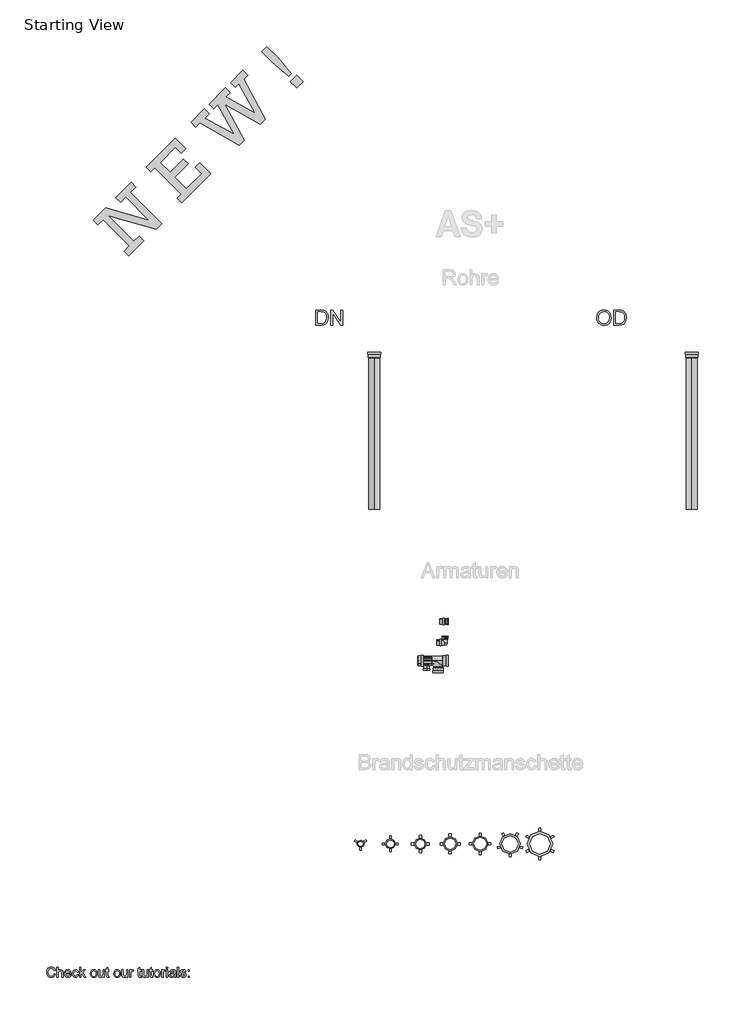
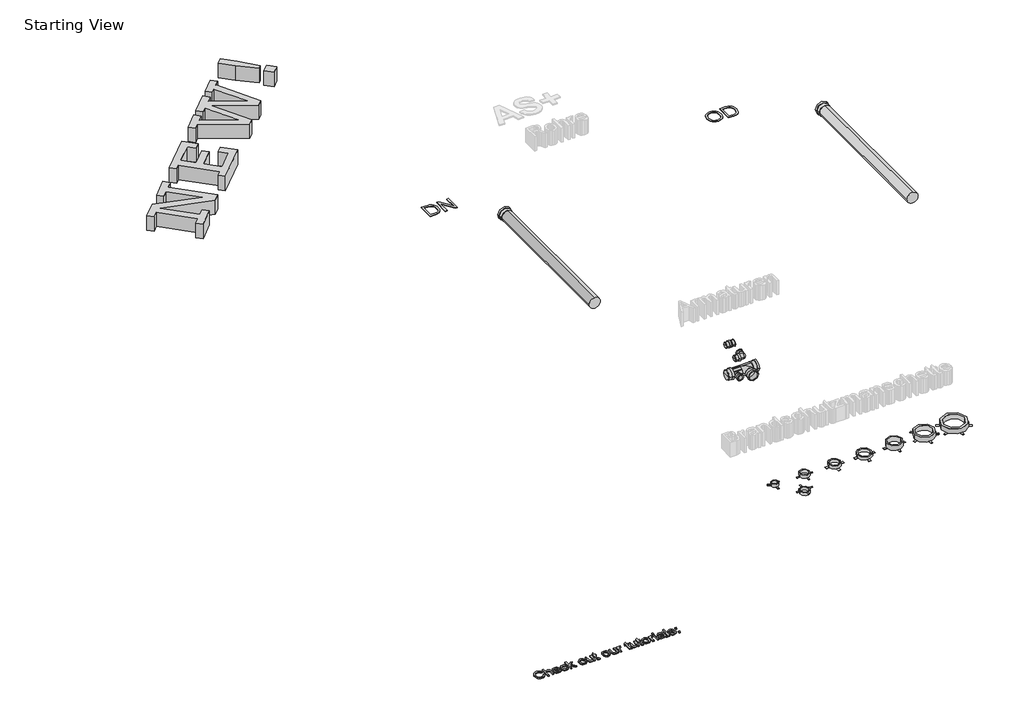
# One storey, part 1 of 2: 10 proxies, 8 pipe fittings, 2 pipe segments.
"""IFC4 building model written with IfcOpenShell, lengths in millimetres."""

from ifc_helpers import new_model, si_unit, point, frame, frame_2d, origin, origin_with_axes, place, context, project, spatial, polyline, circle_curve, trimmed, segment, composite_curve, outline, extrude, transform, mapped, element, save
from components import dn_110_31cb750b, dn_125_ca2b448a, dn_160_368857a8, dn_200_3af189cd, dn_50_013501fe, dn_75_5bf1040d, dn_90_ac1121be, pipe_fitting_2378b430, pipe_fitting_66f164b8, pif_as_branch_shower_wavin_03432781, pif_as_pipe_socket_wavin_socket_end_af24ac37, z_pif_as_transition_reducer_rubber_wavin_nested_var_23693647, z_pif_as_transition_reducer_rubber_wavin_nested_var_89c88401, z_starting_view_new_start_4_e8dffedb

model = new_model("IFC4")

# Units and contexts
model_context = context("Model", 3, world=origin())
ifc_project = project(units=[si_unit("LENGTHUNIT", "METRE", prefix="MILLI")], contexts=[model_context])

# Site, building, storey
site = spatial("IfcSite", under=ifc_project)
building = spatial("IfcBuilding", under=site)
storey = spatial("IfcBuildingStorey", under=building, Name="Starting View", Elevation=0.0)

# Proxies
placement = place(None, origin())
element("IfcBuildingElementProxy", 1, Name="Rockwell 500", ObjectType="Rockwell 500", at=placement, inside=storey, context=model_context, shape_type="SweptSolid", body=[
    extrude(outline(polyline([(22846.3326956, 14460.7284152), (22586.0739708, 14720.9871399), (22534.0222259, 14668.935395), (22487.7540081, 14715.2036127), (22611.7383729, 14839.1879775), (23040.9845335, 14717.1917002), (22811.6315323, 14946.5447014), (22759.5797874, 14894.4929565), (22713.3115696, 14940.7611742), (22863.6832773, 15091.1328819), (22909.951495, 15044.8646641), (22857.89975, 14992.8129192), (23170.2102198, 14680.5024494), (23114.3630351, 14624.6552647), (22639.933068, 14759.6644782), (22892.6009134, 14506.9966329), (22944.6526583, 14559.0483779), (22990.9208761, 14512.7801601), (22840.5491684, 14362.4084525), (22794.2809507, 14408.6766702), (22846.3326956, 14460.7284152)])), origin_with_axes(), (0.0, 0.0, 1.0), 150.0),
    extrude(outline(polyline([(23361.066618, 14975.4623375), (23100.8078932, 15235.7210623), (23060.3232027, 15195.2363718), (23014.0549849, 15241.5045895), (23303.2313458, 15530.6809504), (23407.3348357, 15426.5774605), (23361.066618, 15380.3092427), (23303.2313458, 15438.1445149), (23152.8596381, 15287.7728073), (23251.1796008, 15189.4528446), (23384.2007268, 15322.4739706), (23430.4689446, 15276.2057528), (23297.4478186, 15143.1846268), (23413.1183629, 15027.5140825), (23563.4900706, 15177.8857901), (23499.8712712, 15241.5045895), (23546.1394889, 15287.7728073), (23656.0265061, 15177.8857901), (23366.8501452, 14888.7094293), (23320.5819274, 14934.977647), (23361.066618, 14975.4623375)])), origin_with_axes(), (0.0, 0.0, 1.0), 150.0),
    extrude(outline(polyline([(23939.2386045, 15461.0978886), (23546.1394889, 15681.0526581), (23505.6547984, 15640.5679675), (23459.3865807, 15686.8361853), (23592.4077067, 15819.8573113), (23638.6759244, 15773.5890935), (23594.5765294, 15729.4896985), (23885.4698749, 15567.2798336), (23725.0673622, 15859.9805313), (23684.9441422, 15819.8573113), (23638.6759244, 15866.125529), (23800.6146865, 16028.0642911), (23846.8829042, 15981.7960734), (23804.0486558, 15938.9618249), (24093.6768547, 15775.4868134), (23933.2743421, 16068.1875112), (23898.9346492, 16033.8478183), (23852.6664315, 16080.1160361), (23974.120503, 16201.5701076), (24020.3887208, 16155.3018899), (23979.9040302, 16114.8171994), (24197.5092418, 15719.3685259), (24147.3552167, 15669.2145008), (23795.6444678, 15865.3122205), (23988.2178506, 15510.0771347), (23939.2386045, 15461.0978886)])), origin_with_axes(), (0.0, 0.0, 1.0), 150.0),
    extrude(outline(polyline([(24452.7977479, 16171.2969573), (24426.5911402, 16145.0903496), (24265.375319, 16280.4610336), (24159.193374, 16386.6429786), (24211.2451189, 16438.6947235), (24317.427064, 16332.5127785), (24452.7977479, 16171.2969573)])), origin_with_axes(), (0.0, 0.0, 1.0), 150.0),
    extrude(outline(polyline([(24506.205007, 16028.0642911), (24442.5862076, 16091.6830905), (24506.205007, 16155.3018899), (24569.8238064, 16091.6830905), (24506.205007, 16028.0642911)])), origin_with_axes(), (0.0, 0.0, 1.0), 150.0),
])
element("IfcBuildingElementProxy", 2, Name="Arial 100", ObjectType="Arial 100", at=placement, inside=storey, context=model_context, shape_type="SweptSolid", body=[
    extrude(outline(polyline([(22101.0469772, 7241.8902553), (22113.604016, 7238.6528938), (22107.8098746, 7224.0203874), (22098.7170579, 7213.3303498), (22086.7731558, 7206.7912473), (22072.425758, 7204.6115465), (22057.8606967, 7206.2608841), (22046.2938736, 7211.2088969), (22037.4279175, 7219.2839067), (22030.9654571, 7230.3142352), (22025.7047446, 7257.1696208), (22027.191601, 7271.8174556), (22031.6521702, 7284.4664649), (22038.8534603, 7294.7150441), (22048.5624792, 7302.1615889), (22060.0771857, 7306.6957344), (22072.6955381, 7308.2071163), (22086.4635218, 7306.2512104), (22097.8464039, 7300.3834925), (22106.4885651, 7290.9657135), (22112.0343861, 7278.3596238), (22099.4773474, 7275.3675169), (22089.1766515, 7290.8062979), (22072.2050288, 7295.6500775), (22052.5601303, 7290.2790004), (22041.4623567, 7275.8580262), (22038.2617834, 7257.1941463), (22042.0509679, 7235.562685), (22053.8477172, 7221.7425847), (22071.1749592, 7217.1685852), (22081.6565304, 7218.7259524), (22090.3906621, 7223.3980537), (22096.9849469, 7231.1358383), (22101.0469772, 7241.8902553)])), origin_with_axes(), (0.0, 0.0, 1.0), 10.0),
    extrude(outline(polyline([(22129.3003145, 7206.1811763), (22129.3003145, 7306.6374865), (22141.8573532, 7306.6374865), (22141.8573532, 7269.7021342), (22151.6491457, 7278.5680902), (22163.7095437, 7281.5234089), (22177.8116869, 7278.2983101), (22186.3710746, 7269.3833031), (22188.9462486, 7252.8776642), (22188.9462486, 7206.1811763), (22176.3892098, 7206.1811763), (22176.3892098, 7251.5778145), (22172.3915588, 7264.8215663), (22161.0607934, 7268.9663702), (22150.7723602, 7266.170467), (22143.9052297, 7258.5920979), (22141.8573532, 7245.3728715), (22141.8573532, 7206.1811763), (22129.3003145, 7206.1811763)])), origin_with_axes(), (0.0, 0.0, 1.0), 10.0),
    extrude(outline(polyline([(22257.862809, 7228.1559942), (22270.1745931, 7226.5863643), (22265.7385494, 7217.3096067), (22258.6598867, 7210.3750311), (22249.0980205, 7206.0524176), (22237.2123664, 7204.6115465), (22222.4786925, 7207.0978156), (22211.1417956, 7214.5566231), (22203.9129144, 7226.5035909), (22201.5032874, 7242.454341), (22203.9374399, 7258.9415858), (22211.2398975, 7271.271764), (22222.4235102, 7278.9604977), (22236.5011278, 7281.5234089), (22250.1403528, 7278.9666291), (22261.0388569, 7271.2962895), (22268.1849647, 7258.9906367), (22270.5670006, 7242.5279174), (22270.4934242, 7239.1434031), (22214.0603261, 7239.1434031), (22216.2338956, 7229.7440181), (22221.283076, 7222.833968), (22228.5702052, 7218.5849309), (22237.457621, 7217.1685852), (22249.7694051, 7219.7928101), (22257.862809, 7228.1559942)]), holes=[polyline([(22214.0603261, 7251.7004419), (22258.0099618, 7251.7004419), (22252.9822412, 7263.0802582), (22245.6613895, 7267.4948422), (22236.4520769, 7268.9663702), (22220.9887704, 7264.2697434), (22216.123531, 7258.7791046), (22214.0603261, 7251.7004419)])]), origin_with_axes(), (0.0, 0.0, 1.0), 10.0),
    extrude(outline(polyline([(22330.2129347, 7232.8648837), (22342.7699735, 7231.2952539), (22339.2689632, 7220.1269696), (22332.6900069, 7211.6871435), (22323.6523725, 7206.3804457), (22312.7753282, 7204.6115465), (22299.4181461, 7207.0794215), (22288.9733631, 7214.4830467), (22282.2319255, 7226.4974595), (22279.9847797, 7242.7976976), (22283.8230152, 7263.6566067), (22295.5216626, 7277.0597741), (22312.6036499, 7281.5234089), (22323.2139798, 7279.9905673), (22331.6967255, 7275.3920423), (22337.7821068, 7267.9730888), (22341.2003437, 7257.9789612), (22328.6433049, 7256.4093314), (22322.8185066, 7265.8148477), (22312.7017518, 7268.9663702), (22304.5868881, 7267.4151344), (22298.1458875, 7262.7614272), (22293.9428357, 7254.7538624), (22292.5418184, 7243.1410541), (22293.9121789, 7231.3718959), (22298.0232602, 7223.33674), (22304.3477648, 7218.7106239), (22312.3583953, 7217.1685852), (22324.1919328, 7221.0190835), (22330.2129347, 7232.8648837)])), origin_with_axes(), (0.0, 0.0, 1.0), 10.0),
    extrude(outline(polyline([(22353.7573824, 7206.1811763), (22353.7573824, 7306.6374865), (22366.3144212, 7306.6374865), (22366.3144212, 7252.656935), (22394.4696566, 7279.9537791), (22411.8336867, 7279.9537791), (22383.3350949, 7252.3135785), (22413.4033166, 7206.1811763), (22398.7370877, 7206.1811763), (22374.3342487, 7243.5825125), (22366.3144212, 7235.8079397), (22366.3144212, 7206.1811763), (22353.7573824, 7206.1811763)])), origin_with_axes(), (0.0, 0.0, 1.0), 10.0),
    extrude(outline(polyline([(22460.492212, 7243.0674777), (22463.2084074, 7260.8545722), (22471.3569936, 7273.3564286), (22481.4246975, 7279.4816639), (22493.4789642, 7281.5234089), (22506.6705994, 7279.0371398), (22517.2073529, 7271.5783323), (22524.1143374, 7259.7355978), (22526.4166655, 7244.0975473), (22522.3454381, 7221.7548474), (22510.4873751, 7209.1119695), (22493.4789642, 7204.6115465), (22480.1279135, 7207.0886186), (22469.6034227, 7214.5198349), (22462.7700147, 7226.6108898), (22460.492212, 7243.0674777)]), holes=[polyline([(22473.0492507, 7243.0920032), (22474.5023846, 7231.7275152), (22478.8617863, 7223.6310456), (22485.4223485, 7218.7842003), (22493.4789642, 7217.1685852), (22501.4987917, 7218.7933974), (22508.0470912, 7223.6678338), (22512.4064929, 7231.8716023), (22513.8596267, 7243.4844106), (22512.3972958, 7254.5178048), (22508.010303, 7262.5039098), (22501.4528065, 7267.3507551), (22493.4789642, 7268.9663702), (22485.4223485, 7267.3568864), (22478.8617863, 7262.5284352), (22474.5023846, 7254.4503598), (22473.0492507, 7243.0920032)])]), origin_with_axes(), (0.0, 0.0, 1.0), 10.0),
    extrude(outline(polyline([(22587.6322295, 7206.1811763), (22587.6322295, 7218.8608424), (22577.7975175, 7208.1738705), (22564.9706986, 7204.6115465), (22553.1616866, 7207.113144), (22545.0192317, 7213.3916634), (22541.2790981, 7222.6377642), (22540.5433341, 7234.3118862), (22540.5433341, 7279.9537791), (22553.1003729, 7279.9537791), (22553.1003729, 7240.2225236), (22553.8606624, 7227.4202302), (22558.8270693, 7219.9031747), (22568.1835347, 7217.1685852), (22578.6681716, 7219.9644884), (22585.5966158, 7227.5796457), (22587.6322295, 7241.5714243), (22587.6322295, 7279.9537791), (22600.1892683, 7279.9537791), (22600.1892683, 7206.1811763), (22587.6322295, 7206.1811763)])), origin_with_axes(), (0.0, 0.0, 1.0), 10.0),
    extrude(outline(polyline([(22644.138904, 7216.6535504), (22645.7085338, 7205.8132943), (22636.3152802, 7204.6115465), (22625.7938551, 7206.6962111), (22620.5454053, 7212.1653901), (22619.0248264, 7226.4146861), (22619.0248264, 7267.3967403), (22609.6070474, 7267.3967403), (22609.6070474, 7279.9537791), (22619.0248264, 7279.9537791), (22619.0248264, 7297.881895), (22631.5818652, 7305.2640604), (22631.5818652, 7279.9537791), (22644.138904, 7279.9537791), (22644.138904, 7267.3967403), (22631.5818652, 7267.3967403), (22631.5818652, 7226.782568), (22632.2440528, 7220.3078449), (22634.3900311, 7218.0147138), (22638.669725, 7217.1685852), (22644.138904, 7216.6535504)])), origin_with_axes(), (0.0, 0.0, 1.0), 10.0),
    extrude(outline(polyline([(22692.7974292, 7243.0674777), (22695.5136246, 7260.8545722), (22703.6622108, 7273.3564286), (22713.7299147, 7279.4816639), (22725.7841814, 7281.5234089), (22738.9758166, 7279.0371398), (22749.5125701, 7271.5783323), (22756.4195546, 7259.7355978), (22758.7218827, 7244.0975473), (22754.6506553, 7221.7548474), (22742.7925923, 7209.1119695), (22725.7841814, 7204.6115465), (22712.4331307, 7207.0886186), (22701.9086399, 7214.5198349), (22695.0752319, 7226.6108898), (22692.7974292, 7243.0674777)]), holes=[polyline([(22705.354468, 7243.0920032), (22706.8076018, 7231.7275152), (22711.1670035, 7223.6310456), (22717.7275657, 7218.7842003), (22725.7841814, 7217.1685852), (22733.8040089, 7218.7933974), (22740.3523084, 7223.6678338), (22744.7117101, 7231.8716023), (22746.164844, 7243.4844106), (22744.702513, 7254.5178048), (22740.3155202, 7262.5039098), (22733.7580237, 7267.3507551), (22725.7841814, 7268.9663702), (22717.7275657, 7267.3568864), (22711.1670035, 7262.5284352), (22706.8076018, 7254.4503598), (22705.354468, 7243.0920032)])]), origin_with_axes(), (0.0, 0.0, 1.0), 10.0),
    extrude(outline(polyline([(22819.9374467, 7206.1811763), (22819.9374467, 7218.8608424), (22810.1027347, 7208.1738705), (22797.2759158, 7204.6115465), (22785.4669038, 7207.113144), (22777.324449, 7213.3916634), (22773.5843153, 7222.6377642), (22772.8485513, 7234.3118862), (22772.8485513, 7279.9537791), (22785.4055901, 7279.9537791), (22785.4055901, 7240.2225236), (22786.1658796, 7227.4202302), (22791.1322865, 7219.9031747), (22800.4887519, 7217.1685852), (22810.9733888, 7219.9644884), (22817.901833, 7227.5796457), (22819.9374467, 7241.5714243), (22819.9374467, 7279.9537791), (22832.4944855, 7279.9537791), (22832.4944855, 7206.1811763), (22819.9374467, 7206.1811763)])), origin_with_axes(), (0.0, 0.0, 1.0), 10.0),
    extrude(outline(polyline([(22849.7604138, 7206.1811763), (22849.7604138, 7279.9537791), (22860.7478227, 7279.9537791), (22860.7478227, 7269.0399466), (22868.546921, 7279.0953878), (22876.3950703, 7281.5234089), (22889.00116, 7277.6483852), (22884.8073052, 7266.3911962), (22875.9781373, 7268.9663702), (22868.8780148, 7266.4892981), (22864.3530663, 7259.6221675), (22862.3174526, 7244.9559386), (22862.3174526, 7206.1811763), (22849.7604138, 7206.1811763)])), origin_with_axes(), (0.0, 0.0, 1.0), 10.0),
    extrude(outline(polyline([(22962.7737627, 7216.6535504), (22964.3433926, 7205.8132943), (22954.950139, 7204.6115465), (22944.4287139, 7206.6962111), (22939.1802641, 7212.1653901), (22937.6596852, 7226.4146861), (22937.6596852, 7267.3967403), (22928.2419061, 7267.3967403), (22928.2419061, 7279.9537791), (22937.6596852, 7279.9537791), (22937.6596852, 7297.881895), (22950.216724, 7305.2640604), (22950.216724, 7279.9537791), (22962.7737627, 7279.9537791), (22962.7737627, 7267.3967403), (22950.216724, 7267.3967403), (22950.216724, 7226.782568), (22950.8789115, 7220.3078449), (22953.0248899, 7218.0147138), (22957.3045837, 7217.1685852), (22962.7737627, 7216.6535504)])), origin_with_axes(), (0.0, 0.0, 1.0), 10.0),
    extrude(outline(polyline([(23022.4196969, 7206.1811763), (23022.4196969, 7218.8608424), (23012.5849849, 7208.1738705), (22999.758166, 7204.6115465), (22987.9491539, 7207.113144), (22979.8066991, 7213.3916634), (22976.0665655, 7222.6377642), (22975.3308015, 7234.3118862), (22975.3308015, 7279.9537791), (22987.8878403, 7279.9537791), (22987.8878403, 7240.2225236), (22988.6481297, 7227.4202302), (22993.6145367, 7219.9031747), (23002.9710021, 7217.1685852), (23013.4556389, 7219.9644884), (23020.3840832, 7227.5796457), (23022.4196969, 7241.5714243), (23022.4196969, 7279.9537791), (23034.9767356, 7279.9537791), (23034.9767356, 7206.1811763), (23022.4196969, 7206.1811763)])), origin_with_axes(), (0.0, 0.0, 1.0), 10.0),
    extrude(outline(polyline([(23078.9263713, 7216.6535504), (23080.4960012, 7205.8132943), (23071.1027476, 7204.6115465), (23060.5813225, 7206.6962111), (23055.3328727, 7212.1653901), (23053.8122938, 7226.4146861), (23053.8122938, 7267.3967403), (23044.3945147, 7267.3967403), (23044.3945147, 7279.9537791), (23053.8122938, 7279.9537791), (23053.8122938, 7297.881895), (23066.3693326, 7305.2640604), (23066.3693326, 7279.9537791), (23078.9263713, 7279.9537791), (23078.9263713, 7267.3967403), (23066.3693326, 7267.3967403), (23066.3693326, 7226.782568), (23067.0315202, 7220.3078449), (23069.1774985, 7218.0147138), (23073.4571923, 7217.1685852), (23078.9263713, 7216.6535504)])), origin_with_axes(), (0.0, 0.0, 1.0), 10.0),
    extrude(outline(polyline([(23088.3441504, 7243.0674777), (23091.0603458, 7260.8545722), (23099.208932, 7273.3564286), (23109.2766359, 7279.4816639), (23121.3309026, 7281.5234089), (23134.5225379, 7279.0371398), (23145.0592913, 7271.5783323), (23151.9662758, 7259.7355978), (23154.2686039, 7244.0975473), (23150.1973765, 7221.7548474), (23138.3393136, 7209.1119695), (23121.3309026, 7204.6115465), (23107.9798519, 7207.0886186), (23097.4553612, 7214.5198349), (23090.6219531, 7226.6108898), (23088.3441504, 7243.0674777)]), holes=[polyline([(23100.9011892, 7243.0920032), (23102.3543231, 7231.7275152), (23106.7137247, 7223.6310456), (23113.2742869, 7218.7842003), (23121.3309026, 7217.1685852), (23129.3507301, 7218.7933974), (23135.8990297, 7223.6678338), (23140.2584313, 7231.8716023), (23141.7115652, 7243.4844106), (23140.2492342, 7254.5178048), (23135.8622415, 7262.5039098), (23129.3047449, 7267.3507551), (23121.3309026, 7268.9663702), (23113.2742869, 7267.3568864), (23106.7137247, 7262.5284352), (23102.3543231, 7254.4503598), (23100.9011892, 7243.0920032)])]), origin_with_axes(), (0.0, 0.0, 1.0), 10.0),
    extrude(outline(polyline([(23168.3952726, 7206.1811763), (23168.3952726, 7279.9537791), (23179.3826815, 7279.9537791), (23179.3826815, 7269.0399466), (23187.1817798, 7279.0953878), (23195.029929, 7281.5234089), (23207.6360187, 7277.6483852), (23203.442164, 7266.3911962), (23194.6129961, 7268.9663702), (23187.5128736, 7266.4892981), (23182.987925, 7259.6221675), (23180.9523113, 7244.9559386), (23180.9523113, 7206.1811763), (23168.3952726, 7206.1811763)])), origin_with_axes(), (0.0, 0.0, 1.0), 10.0),
    extrude(outline(polyline([(23215.4841679, 7294.0804477), (23215.4841679, 7306.6374865), (23228.0412067, 7306.6374865), (23228.0412067, 7294.0804477), (23215.4841679, 7294.0804477)])), origin_with_axes(), (0.0, 0.0, 1.0), 10.0),
    extrude(outline(polyline([(23215.4841679, 7206.1811763), (23215.4841679, 7279.9537791), (23228.0412067, 7279.9537791), (23228.0412067, 7206.1811763), (23215.4841679, 7206.1811763)])), origin_with_axes(), (0.0, 0.0, 1.0), 10.0),
    extrude(outline(polyline([(23293.9656602, 7215.5989554), (23281.7887662, 7207.0886186), (23268.3365479, 7204.6115465), (23257.842714, 7206.1014686), (23250.1018637, 7210.5712348), (23245.3285948, 7217.3586576), (23243.7375052, 7225.8015494), (23246.1410009, 7235.7343633), (23252.4563085, 7242.9448504), (23261.2486881, 7247.0651287), (23272.1134697, 7248.9535896), (23293.8920838, 7253.2700717), (23293.9656602, 7256.0659749), (23290.5075695, 7265.3366011), (23276.6261555, 7268.9663702), (23263.921964, 7266.5506117), (23257.8641738, 7257.9789612), (23245.307135, 7259.5485911), (23250.7395258, 7271.8113243), (23261.6778838, 7278.9972859), (23278.2448363, 7281.5234089), (23293.4628882, 7279.2915915), (23302.0590641, 7273.6875224), (23305.9095624, 7265.1649229), (23306.522699, 7254.177514), (23306.522699, 7238.5547919), (23307.1603611, 7216.7393896), (23309.6619587, 7206.1811763), (23297.1049199, 7206.1811763), (23293.9656602, 7215.5989554)]), holes=[polyline([(23293.9656602, 7240.7130329), (23273.707625, 7236.8625347), (23262.9041571, 7234.826921), (23258.0113266, 7231.5159831), (23256.2945439, 7226.6844662), (23260.0346776, 7219.890912), (23271.0098237, 7217.1685852), (23283.7140153, 7220.1729549), (23291.9055211, 7227.4447556), (23293.8920838, 7237.1568403), (23293.9656602, 7240.7130329)])]), origin_with_axes(), (0.0, 0.0, 1.0), 10.0),
    extrude(outline(polyline([(23323.7886273, 7206.1811763), (23323.7886273, 7306.6374865), (23336.3456661, 7306.6374865), (23336.3456661, 7206.1811763), (23323.7886273, 7206.1811763)])), origin_with_axes(), (0.0, 0.0, 1.0), 10.0),
    extrude(outline(polyline([(23350.4723347, 7228.1559942), (23363.0293735, 7229.725624), (23368.841909, 7220.4059468), (23382.1592372, 7217.1685852), (23394.9615307, 7220.1361667), (23399.1308599, 7227.1013991), (23394.9370052, 7232.7422564), (23382.0120844, 7236.3229745), (23363.1029499, 7242.4666038), (23354.8501304, 7249.6403027), (23352.0419646, 7259.7693203), (23354.2983075, 7269.1257857), (23360.4541995, 7276.2749591), (23368.4372388, 7279.9905673), (23379.2407067, 7281.5234089), (23394.5200723, 7279.0585996), (23404.2321569, 7272.3876727), (23408.548639, 7261.1182209), (23395.9916002, 7259.5485911), (23391.270448, 7266.4770353), (23380.2217254, 7268.9663702), (23368.2042469, 7266.5873999), (23364.5990033, 7261.0446445), (23366.0950568, 7257.39035), (23370.7794208, 7254.6189723), (23381.5951515, 7251.9456965), (23400.0260395, 7246.0350591), (23408.5854272, 7239.3396068), (23411.6878987, 7228.4257743), (23408.045867, 7216.4082958), (23397.5367046, 7207.6894925), (23381.987559, 7204.6115465), (23369.326287, 7206.0953372), (23360.0863175, 7210.5467093), (23353.9181627, 7217.916612), (23350.4723347, 7228.1559942)])), origin_with_axes(), (0.0, 0.0, 1.0), 10.0),
    extrude(outline(polyline([(23428.953827, 7206.1811763), (23428.953827, 7218.7382151), (23441.5108658, 7218.7382151), (23441.5108658, 7206.1811763), (23428.953827, 7206.1811763)])), origin_with_axes(), (0.0, 0.0, 1.0), 10.0),
    extrude(outline(polyline([(23428.953827, 7267.3967403), (23428.953827, 7279.9537791), (23441.5108658, 7279.9537791), (23441.5108658, 7267.3967403), (23428.953827, 7267.3967403)])), origin_with_axes(), (0.0, 0.0, 1.0), 10.0),
])
dn_110_shape = dn_110_31cb750b(model_context)
element("IfcBuildingElementProxy", 3, Name="SE_AS+_Fire_Collar_For_Ceilings_Wavin : DN 110", ObjectType="SE_AS+_Fire_Collar_For_Ceilings_Wavin : DN 110", at=placement, inside=storey, context=model_context, shape_type="MappedRepresentation", body=[
    mapped(dn_110_shape, transform((26030.0465383, 8529.363064, 150.0), x_axis=(1.0, 0.0, 0.0), y_axis=(0.0, 1.0, 0.0), z_axis=(0.0, 0.0, 1.0))),
])
dn_125_shape = dn_125_ca2b448a(model_context)
element("IfcBuildingElementProxy", 4, Name="SE_AS+_Fire_Collar_For_Ceilings_Wavin : DN 125", ObjectType="SE_AS+_Fire_Collar_For_Ceilings_Wavin : DN 125", at=placement, inside=storey, context=model_context, shape_type="MappedRepresentation", body=[
    mapped(dn_125_shape, transform((26326.7132049, 8529.363064, 150.0), x_axis=(1.0, 0.0, 0.0), y_axis=(0.0, 1.0, 0.0), z_axis=(0.0, 0.0, 1.0))),
])
dn_160_shape = dn_160_368857a8(model_context)
element("IfcBuildingElementProxy", 5, Name="SE_AS+_Fire_Collar_For_Ceilings_Wavin : DN 160", ObjectType="SE_AS+_Fire_Collar_For_Ceilings_Wavin : DN 160", at=placement, inside=storey, context=model_context, shape_type="MappedRepresentation", body=[
    mapped(dn_160_shape, transform((26623.3798716, 8529.363064, 150.0), x_axis=(1.0, 0.0, 0.0), y_axis=(0.0, 1.0, 0.0), z_axis=(0.0, 0.0, 1.0))),
])
dn_200_shape = dn_200_3af189cd(model_context)
element("IfcBuildingElementProxy", 6, Name="SE_AS+_Fire_Collar_For_Ceilings_Wavin : DN 200", ObjectType="SE_AS+_Fire_Collar_For_Ceilings_Wavin : DN 200", at=placement, inside=storey, context=model_context, shape_type="MappedRepresentation", body=[
    mapped(dn_200_shape, transform((26920.0465383, 8529.363064, 150.0), x_axis=(1.0, 0.0, 0.0), y_axis=(0.0, 1.0, 0.0), z_axis=(0.0, 0.0, 1.0))),
])
dn_50_shape = dn_50_013501fe(model_context)
element("IfcBuildingElementProxy", 7, Name="SE_AS+_Fire_Collar_For_Ceilings_Wavin : DN 50", ObjectType="SE_AS+_Fire_Collar_For_Ceilings_Wavin : DN 50", at=placement, inside=storey, context=model_context, shape_type="MappedRepresentation", body=[
    mapped(dn_50_shape, transform((25140.0465383, 8529.363064, 150.0), x_axis=(1.0, 0.0, 0.0), y_axis=(0.0, 1.0, 0.0), z_axis=(0.0, 0.0, 1.0))),
])
dn_75_shape = dn_75_5bf1040d(model_context)
element("IfcBuildingElementProxy", 8, Name="SE_AS+_Fire_Collar_For_Ceilings_Wavin : DN 75", ObjectType="SE_AS+_Fire_Collar_For_Ceilings_Wavin : DN 75", at=placement, inside=storey, context=model_context, shape_type="MappedRepresentation", body=[
    mapped(dn_75_shape, transform((25436.7132049, 8529.363064, 150.0), x_axis=(1.0, 0.0, 0.0), y_axis=(0.0, 1.0, 0.0), z_axis=(0.0, 0.0, 1.0))),
])
element("IfcBuildingElementProxy", 9, Name="SE_AS+_Fire_Collar_For_Ceilings_Wavin : DN 75", ObjectType="SE_AS+_Fire_Collar_For_Ceilings_Wavin : DN 75", at=placement, inside=storey, context=model_context, shape_type="MappedRepresentation", body=[
    mapped(dn_75_shape, transform((25436.7132049, 8529.363064, 0.0), x_axis=(-1.0, 0.0, 0.0), y_axis=(0.0, 1.0, 0.0), z_axis=(0.0, 0.0, -1.0))),
])
dn_90_shape = dn_90_ac1121be(model_context)
element("IfcBuildingElementProxy", 10, Name="SE_AS+_Fire_Collar_For_Ceilings_Wavin : DN 90", ObjectType="SE_AS+_Fire_Collar_For_Ceilings_Wavin : DN 90", at=placement, inside=storey, context=model_context, shape_type="MappedRepresentation", body=[
    mapped(dn_90_shape, transform((25733.3798716, 8529.363064, 150.0), x_axis=(1.0, 0.0, 0.0), y_axis=(0.0, 1.0, 0.0), z_axis=(0.0, 0.0, 1.0))),
])

# Pipe fittings
pipe_fitting_shape = pipe_fitting_2378b430(model_context)
element("IfcPipeFitting", 11, ObjectType="PIF_AS+_Siphon_Bend_Wavin : socket end - Diameters 50-DN30/50-DN40", at=placement, inside=storey, context=model_context, shape_type="MappedRepresentation", body=[
    mapped(pipe_fitting_shape, transform((25977.49115, 10526.2744341, 0.0), x_axis=(1.0, 0.0, 0.0), y_axis=(0.0, 1.0, 0.0), z_axis=(0.0, 0.0, 1.0))),
])
pipe_fitting_2_shape = pipe_fitting_66f164b8(model_context)
element("IfcPipeFitting", 12, ObjectType="PIF_AS+_Siphon_Straight_Wavin_(union) : socket end - Diameters 50-DN30/50-DN40", at=placement, inside=storey, context=model_context, shape_type="MappedRepresentation", body=[
    mapped(pipe_fitting_2_shape, transform((25955.89115, 10736.2744341, 0.0), x_axis=(1.0, 0.0, 0.0), y_axis=(0.0, 1.0, 0.0), z_axis=(0.0, 0.0, 1.0))),
])
pif_as_branch_shower_wavin_shape = pif_as_branch_shower_wavin_03432781(model_context)
element("IfcPipeFitting", 13, ObjectType="PIF_AS+_Branch_Shower_Wavin : 1. DN100-50/90-50 Standard", at=placement, inside=storey, context=model_context, shape_type="MappedRepresentation", body=[
    mapped(pif_as_branch_shower_wavin_shape, transform((25909.574266, 10346.2744341, 0.0), x_axis=(1.0, 0.0, 0.0), y_axis=(0.0, 1.0, 0.0), z_axis=(0.0, 0.0, 1.0))),
])
pif_as_pipe_socket_wavin_socket_end_shape = pif_as_pipe_socket_wavin_socket_end_af24ac37(model_context)
element("IfcPipeFitting", 14, ObjectType="PIF_AS+_Pipe_Socket_Wavin : socket end", at=placement, inside=storey, context=model_context, shape_type="MappedRepresentation", body=[
    mapped(pif_as_pipe_socket_wavin_socket_end_shape, transform((25274.7186266, 13349.5803138, 0.0), x_axis=(0.0, -1.0, 0.0), y_axis=(1.0, 0.0, 0.0), z_axis=(0.0, 0.0, 1.0))),
])
element("IfcPipeFitting", 15, ObjectType="PIF_AS+_Pipe_Socket_Wavin : socket end", at=placement, inside=storey, context=model_context, shape_type="MappedRepresentation", body=[
    mapped(pif_as_pipe_socket_wavin_socket_end_shape, transform((28424.4477753, 13349.5803138, 0.0), x_axis=(0.0, -1.0, 0.0), y_axis=(1.0, 0.0, 0.0), z_axis=(0.0, 0.0, 1.0))),
])
z_pif_as_transition_reducer_rubber_wavin_nested_var_shape = z_pif_as_transition_reducer_rubber_wavin_nested_var_23693647(model_context)
element("IfcPipeFitting", 16, ObjectType="Z_PIF_AS+_Transition_Reducer_Rubber_Wavin_(nested) : var.", at=placement, inside=storey, context=model_context, shape_type="MappedRepresentation", body=[
    mapped(z_pif_as_transition_reducer_rubber_wavin_nested_var_shape, transform((25977.49115, 10561.4744341, 0.0), x_axis=(0.0, 0.9999999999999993, 0.0), y_axis=(-0.9999999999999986, 0.0, 0.0), z_axis=(0.0, 0.0, 0.9999999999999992))),
])
z_pif_as_transition_reducer_rubber_wavin_nested_var_2_shape = z_pif_as_transition_reducer_rubber_wavin_nested_var_89c88401(model_context)
element("IfcPipeFitting", 17, ObjectType="Z_PIF_AS+_Transition_Reducer_Rubber_Wavin_(nested) : var.", at=placement, inside=storey, context=model_context, shape_type="MappedRepresentation", body=[
    mapped(z_pif_as_transition_reducer_rubber_wavin_nested_var_2_shape, transform((25984.04115, 10736.2744341, 0.0), x_axis=(0.9999999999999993, 0.0, 0.0), y_axis=(0.0, 0.9999999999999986, 0.0), z_axis=(0.0, 0.0, 0.9999999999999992))),
])
z_starting_view_new_start_4_shape = z_starting_view_new_start_4_e8dffedb(model_context)
element("IfcPipeFitting", 18, ObjectType="Z_Starting_View_New : Start_4", at=placement, inside=storey, context=model_context, shape_type="MappedRepresentation", body=[
    mapped(z_starting_view_new_start_4_shape, transform((2195.5866295, 6228.2945835, 0.0), x_axis=(1.0, 0.0, 0.0), y_axis=(0.0, 1.0, 0.0), z_axis=(0.0, 0.0, 1.0))),
])

# Pipe segments
element("IfcPipeSegment", 19, ObjectType="Wavin AS+ (mit Muffe) DN", at=placement, inside=storey, context=model_context, shape_type="SweptSolid", body=[
    extrude(outline(composite_curve([segment(trimmed(circle_curve(frame_2d((0.0, 25274.7186266)), 55.0), [point((0.0, 25219.7186266))], [point((-55.0, 25274.7186266))], False, "CARTESIAN"), True, "CONTINUOUS"), segment(trimmed(circle_curve(frame_2d((0.0, 25274.7186266)), 55.0), [point((-55.0, 25274.7186266))], [point((0.0, 25329.7186266))], False, "CARTESIAN"), True, "CONTINUOUS"), segment(trimmed(circle_curve(frame_2d((0.0, 25274.7186266)), 55.0), [point((0.0, 25329.7186266))], [point((55.0, 25274.7186266))], False, "CARTESIAN"), True, "CONTINUOUS"), segment(trimmed(circle_curve(frame_2d((0.0, 25274.7186266)), 55.0), [point((55.0, 25274.7186266))], [point((0.0, 25219.7186266))], False, "CARTESIAN"), True, "CONTINUOUS")], self_intersect=False)), frame((0.0, 11849.0803138, 0.0), z_axis=(0.0, 1.0, 0.0), x_axis=(0.0, 0.0, 1.0)), (0.0, 0.0, 1.0), 1500.0),
])
element("IfcPipeSegment", 20, ObjectType="Wavin AS+ (mit Muffe) OD", at=placement, inside=storey, context=model_context, shape_type="SweptSolid", body=[
    extrude(outline(composite_curve([segment(trimmed(circle_curve(frame_2d((0.0, 28424.4477753)), 55.0), [point((0.0, 28479.4477753))], [point((55.0, 28424.4477753))], False, "CARTESIAN"), True, "CONTINUOUS"), segment(trimmed(circle_curve(frame_2d((0.0, 28424.4477753)), 55.0), [point((55.0, 28424.4477753))], [point((0.0, 28369.4477753))], False, "CARTESIAN"), True, "CONTINUOUS"), segment(trimmed(circle_curve(frame_2d((0.0, 28424.4477753)), 55.0), [point((0.0, 28369.4477753))], [point((-55.0, 28424.4477753))], False, "CARTESIAN"), True, "CONTINUOUS"), segment(trimmed(circle_curve(frame_2d((0.0, 28424.4477753)), 55.0), [point((-55.0, 28424.4477753))], [point((0.0, 28479.4477753))], False, "CARTESIAN"), True, "CONTINUOUS")], self_intersect=False)), frame((0.0, 11849.0803138, 0.0), z_axis=(0.0, 1.0, 0.0), x_axis=(0.0, 0.0, 1.0)), (0.0, 0.0, 1.0), 1500.0),
])

save(model, "model.ifc")
